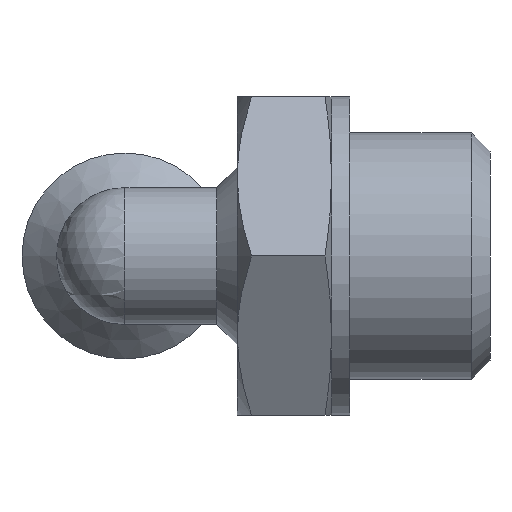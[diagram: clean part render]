
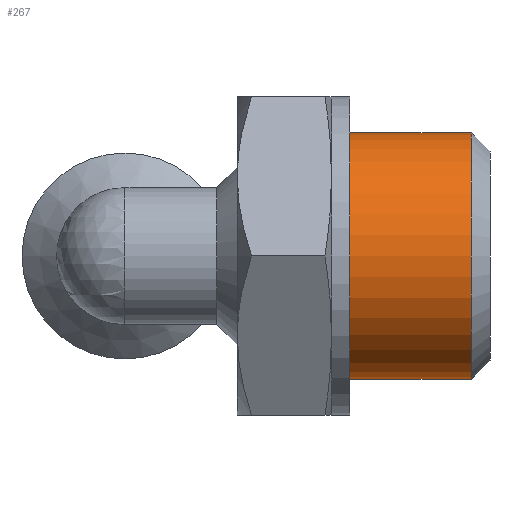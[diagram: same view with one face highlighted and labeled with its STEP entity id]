
A CAD part, left-side view. The second image highlights one B-rep face of the part: STEP entity #267.
In plain terms, the highlighted cylindrical face has radius 6.579 mm (diameter 13.157 mm), a full revolution.
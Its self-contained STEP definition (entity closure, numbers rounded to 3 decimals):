
#224=CARTESIAN_POINT('',(-6.579,-18.5,0.));
#225=VERTEX_POINT('',#224);
#226=CARTESIAN_POINT('',(0.0,-18.5,0.0));
#227=DIRECTION('',(0.0,-1.0,0.0));
#228=DIRECTION('',(1.0,0.0,0.0));
#229=AXIS2_PLACEMENT_3D('',#226,#227,#228);
#230=CIRCLE('',#229,6.579);
#231=EDGE_CURVE('',#225,#225,#230,.T.);
#248=CARTESIAN_POINT('',(0.0,-15.75,0.0));
#249=DIRECTION('',(0.0,1.0,0.0));
#250=DIRECTION('',(-1.0,0.0,0.0));
#251=AXIS2_PLACEMENT_3D('',#248,#249,#250);
#252=CYLINDRICAL_SURFACE('',#251,6.579);
#253=CARTESIAN_POINT('',(-6.579,-12.,0.0));
#254=VERTEX_POINT('',#253);
#255=CARTESIAN_POINT('',(0.0,-12.,0.0));
#256=DIRECTION('',(0.0,1.0,0.0));
#257=DIRECTION('',(-1.0,0.0,0.0));
#258=AXIS2_PLACEMENT_3D('',#255,#256,#257);
#259=CIRCLE('',#258,6.579);
#260=EDGE_CURVE('',#254,#254,#259,.T.);
#261=ORIENTED_EDGE('',*,*,#260,.F.);
#262=EDGE_LOOP('',(#261));
#263=FACE_OUTER_BOUND('',#262,.T.);
#264=ORIENTED_EDGE('',*,*,#231,.F.);
#265=EDGE_LOOP('',(#264));
#266=FACE_BOUND('',#265,.T.);
#267=ADVANCED_FACE('',(#263,#266),#252,.T.);
